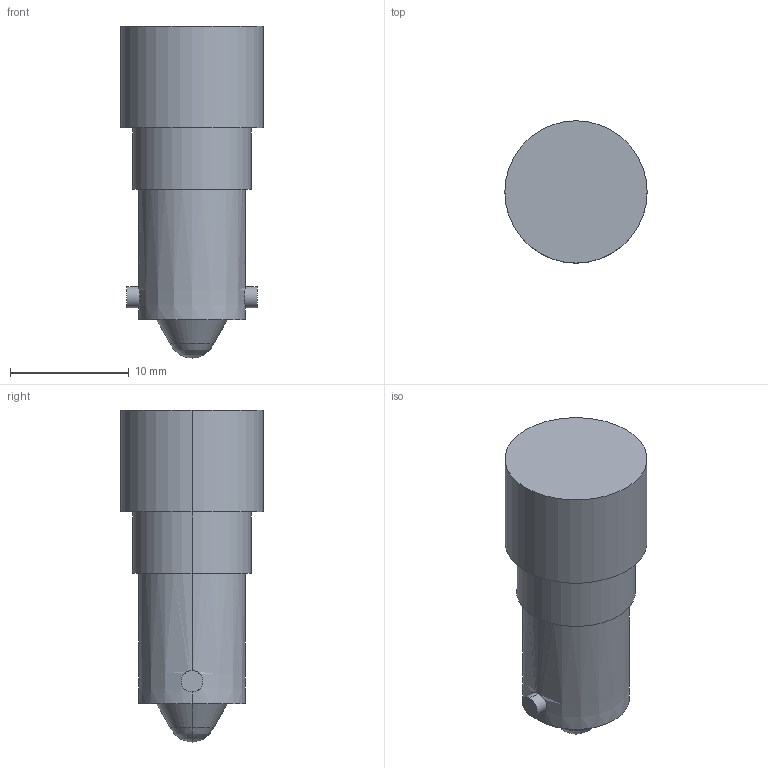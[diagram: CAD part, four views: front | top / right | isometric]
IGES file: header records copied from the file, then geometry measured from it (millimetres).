
Start section: Data from XPlus IGES,  Spatial Corp. Copyright (c) 1999-2004
Global section: file name: 229025.igs; native system:  By Spatial Corp.; preprocessor: XPlus ACIS/IGES 3.0; author: Noname; organization: Noname; date: 20120530.175712; units: millimetre
Bounding box: 12 x 12 x 28 mm (x, y, z)
Surface area: 1058.1 mm2 (no closed solid volume)
Topology: 0 solids, 0 shells, 20 faces, 86 edges, 84 vertices
Faces by surface type: revolution 14, extrusion 6
